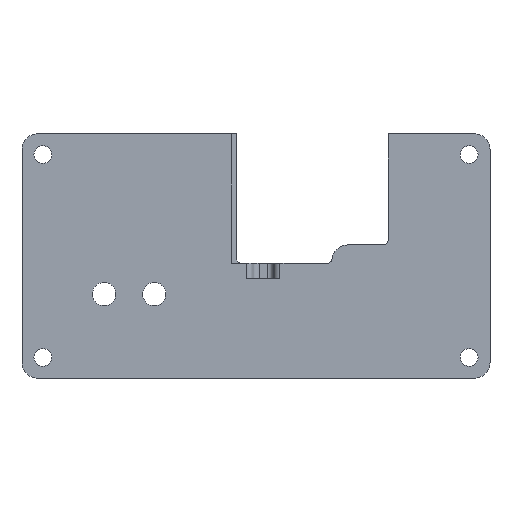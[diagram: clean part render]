
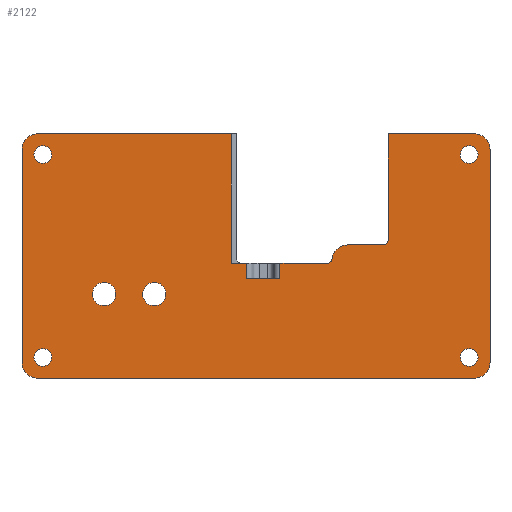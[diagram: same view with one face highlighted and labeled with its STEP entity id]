
A CAD part, top view. The second image highlights one B-rep face of the part: STEP entity #2122.
In plain terms, the highlighted planar face has unit normal (0, 0, 1).
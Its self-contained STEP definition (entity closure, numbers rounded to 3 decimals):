
#262=CARTESIAN_POINT('',(41.,-19.5,4.));
#263=DIRECTION('',(0.,0.,1.));
#264=DIRECTION('',(-1.,0.,0.));
#265=AXIS2_PLACEMENT_3D('',#262,#263,#264);
#267=CARTESIAN_POINT('',(41.,-19.5,4.));
#268=DIRECTION('',(0.,0.,1.));
#269=DIRECTION('',(1.,0.,0.));
#270=AXIS2_PLACEMENT_3D('',#267,#268,#269);
#272=CARTESIAN_POINT('',(-41.,-19.5,4.));
#273=DIRECTION('',(0.,0.,1.));
#274=DIRECTION('',(-1.,0.,0.));
#275=AXIS2_PLACEMENT_3D('',#272,#273,#274);
#277=CARTESIAN_POINT('',(-41.,-19.5,4.));
#278=DIRECTION('',(0.,0.,1.));
#279=DIRECTION('',(1.,0.,0.));
#280=AXIS2_PLACEMENT_3D('',#277,#278,#279);
#282=CARTESIAN_POINT('',(-41.,19.5,4.));
#283=DIRECTION('',(0.,0.,1.));
#284=DIRECTION('',(-1.,0.,0.));
#285=AXIS2_PLACEMENT_3D('',#282,#283,#284);
#287=CARTESIAN_POINT('',(-41.,19.5,4.));
#288=DIRECTION('',(0.,0.,1.));
#289=DIRECTION('',(1.,0.,0.));
#290=AXIS2_PLACEMENT_3D('',#287,#288,#289);
#292=CARTESIAN_POINT('',(41.,19.5,4.));
#293=DIRECTION('',(0.,0.,1.));
#294=DIRECTION('',(-1.,0.,0.));
#295=AXIS2_PLACEMENT_3D('',#292,#293,#294);
#297=CARTESIAN_POINT('',(41.,19.5,4.));
#298=DIRECTION('',(0.,0.,1.));
#299=DIRECTION('',(1.,0.,0.));
#300=AXIS2_PLACEMENT_3D('',#297,#298,#299);
#302=CARTESIAN_POINT('',(-29.218,-7.323,4.));
#303=DIRECTION('',(0.,0.,-1.));
#304=DIRECTION('',(0.,-1.,0.));
#305=AXIS2_PLACEMENT_3D('',#302,#303,#304);
#307=CARTESIAN_POINT('',(-29.218,-7.323,4.));
#308=DIRECTION('',(0.,0.,-1.));
#309=DIRECTION('',(0.,1.,0.));
#310=AXIS2_PLACEMENT_3D('',#307,#308,#309);
#312=CARTESIAN_POINT('',(-19.566,-7.323,4.));
#313=DIRECTION('',(0.,0.,-1.));
#314=DIRECTION('',(0.,-1.,0.));
#315=AXIS2_PLACEMENT_3D('',#312,#313,#314);
#317=CARTESIAN_POINT('',(-19.566,-7.323,4.));
#318=DIRECTION('',(0.,0.,-1.));
#319=DIRECTION('',(0.,1.,0.));
#320=AXIS2_PLACEMENT_3D('',#317,#318,#319);
#322=DIRECTION('',(0.,-1.,0.));
#323=VECTOR('',#322,24.916);
#324=CARTESIAN_POINT('',(-4.8,23.5,4.));
#325=LINE('',#324,#323);
#326=DIRECTION('',(0.,1.,0.));
#327=VECTOR('',#326,3.);
#328=CARTESIAN_POINT('',(-1.8,-4.416,4.));
#329=LINE('',#328,#327);
#330=DIRECTION('',(0.,-1.,0.));
#331=VECTOR('',#330,3.);
#332=CARTESIAN_POINT('',(4.6,-1.416,4.));
#333=LINE('',#332,#331);
#334=DIRECTION('',(1.,0.,0.));
#335=VECTOR('',#334,9.026);
#336=CARTESIAN_POINT('',(4.6,-1.416,4.));
#337=LINE('',#336,#335);
#338=CARTESIAN_POINT('',(17.6,-0.874,4.));
#339=DIRECTION('',(0.,0.,1.));
#340=DIRECTION('',(0.,1.,0.));
#341=AXIS2_PLACEMENT_3D('',#338,#339,#340);
#343=DIRECTION('',(0.,-1.,0.));
#344=VECTOR('',#343,20.374);
#345=CARTESIAN_POINT('',(25.4,23.5,4.));
#346=LINE('',#345,#344);
#347=DIRECTION('',(-1.,0.,0.));
#348=VECTOR('',#347,16.6);
#349=CARTESIAN_POINT('',(42.,23.5,4.));
#350=LINE('',#349,#348);
#351=CARTESIAN_POINT('',(42.,20.5,4.));
#352=DIRECTION('',(0.,0.,1.));
#353=DIRECTION('',(1.,0.,0.));
#354=AXIS2_PLACEMENT_3D('',#351,#352,#353);
#356=DIRECTION('',(0.,1.,0.));
#357=VECTOR('',#356,41.);
#358=CARTESIAN_POINT('',(45.,-20.5,4.));
#359=LINE('',#358,#357);
#360=CARTESIAN_POINT('',(42.,-20.5,4.));
#361=DIRECTION('',(0.,0.,1.));
#362=DIRECTION('',(0.,-1.,0.));
#363=AXIS2_PLACEMENT_3D('',#360,#361,#362);
#365=DIRECTION('',(1.,0.,0.));
#366=VECTOR('',#365,84.);
#367=CARTESIAN_POINT('',(-42.,-23.5,4.));
#368=LINE('',#367,#366);
#369=CARTESIAN_POINT('',(-42.,-20.5,4.));
#370=DIRECTION('',(0.,0.,1.));
#371=DIRECTION('',(-1.,0.,0.));
#372=AXIS2_PLACEMENT_3D('',#369,#370,#371);
#374=DIRECTION('',(0.,-1.,0.));
#375=VECTOR('',#374,41.);
#376=CARTESIAN_POINT('',(-45.,20.5,4.));
#377=LINE('',#376,#375);
#378=CARTESIAN_POINT('',(-42.,20.5,4.));
#379=DIRECTION('',(0.,0.,1.));
#380=DIRECTION('',(0.,1.,0.));
#381=AXIS2_PLACEMENT_3D('',#378,#379,#380);
#383=DIRECTION('',(-1.,0.,0.));
#384=VECTOR('',#383,37.2);
#385=CARTESIAN_POINT('',(-4.8,23.5,4.));
#386=LINE('',#385,#384);
#596=CARTESIAN_POINT('',(24.4,3.126,4.));
#597=DIRECTION('',(0.,0.,-1.));
#598=DIRECTION('',(1.,0.,0.));
#599=AXIS2_PLACEMENT_3D('',#596,#597,#598);
#610=DIRECTION('',(-1.,0.,0.));
#611=VECTOR('',#610,6.8);
#612=CARTESIAN_POINT('',(24.4,2.126,4.));
#613=LINE('',#612,#611);
#626=CARTESIAN_POINT('',(13.626,-0.416,4.));
#627=DIRECTION('',(0.,0.,-1.));
#628=DIRECTION('',(0.993,-0.114,0.));
#629=AXIS2_PLACEMENT_3D('',#626,#627,#628);
#670=DIRECTION('',(-1.,0.,0.));
#671=VECTOR('',#670,3.);
#672=CARTESIAN_POINT('',(-1.8,-1.416,4.));
#673=LINE('',#672,#671);
#720=DIRECTION('',(-1.,0.,0.));
#721=VECTOR('',#720,6.4);
#722=CARTESIAN_POINT('',(4.6,-4.416,4.));
#723=LINE('',#722,#721);
#1470=CARTESIAN_POINT('',(42.,-23.5,4.));
#1471=CARTESIAN_POINT('',(45.,-20.5,4.));
#1472=VERTEX_POINT('',#1470);
#1473=VERTEX_POINT('',#1471);
#1474=CARTESIAN_POINT('',(-45.,-20.5,4.));
#1475=CARTESIAN_POINT('',(-42.,-23.5,4.));
#1476=VERTEX_POINT('',#1474);
#1477=VERTEX_POINT('',#1475);
#1478=CARTESIAN_POINT('',(-42.,23.5,4.));
#1479=CARTESIAN_POINT('',(-45.,20.5,4.));
#1480=VERTEX_POINT('',#1478);
#1481=VERTEX_POINT('',#1479);
#1482=CARTESIAN_POINT('',(45.,20.5,4.));
#1483=CARTESIAN_POINT('',(42.,23.5,4.));
#1484=VERTEX_POINT('',#1482);
#1485=VERTEX_POINT('',#1483);
#1487=CARTESIAN_POINT('',(25.4,23.5,4.));
#1489=VERTEX_POINT('',#1487);
#1491=CARTESIAN_POINT('',(17.6,2.126,4.));
#1493=VERTEX_POINT('',#1491);
#1494=CARTESIAN_POINT('',(-29.218,-9.573,4.));
#1495=CARTESIAN_POINT('',(-29.218,-5.073,4.));
#1496=VERTEX_POINT('',#1494);
#1497=VERTEX_POINT('',#1495);
#1498=CARTESIAN_POINT('',(-19.566,-9.573,4.));
#1499=CARTESIAN_POINT('',(-19.566,-5.073,4.));
#1500=VERTEX_POINT('',#1498);
#1501=VERTEX_POINT('',#1499);
#1764=CARTESIAN_POINT('',(14.62,-0.53,4.));
#1766=VERTEX_POINT('',#1764);
#1768=CARTESIAN_POINT('',(13.626,-1.416,4.));
#1770=VERTEX_POINT('',#1768);
#1772=CARTESIAN_POINT('',(25.4,3.126,4.));
#1774=VERTEX_POINT('',#1772);
#1776=CARTESIAN_POINT('',(24.4,2.126,4.));
#1778=VERTEX_POINT('',#1776);
#1780=CARTESIAN_POINT('',(39.3,-19.5,4.));
#1781=CARTESIAN_POINT('',(42.7,-19.5,4.));
#1782=VERTEX_POINT('',#1780);
#1783=VERTEX_POINT('',#1781);
#1784=CARTESIAN_POINT('',(-42.7,-19.5,4.));
#1785=CARTESIAN_POINT('',(-39.3,-19.5,4.));
#1786=VERTEX_POINT('',#1784);
#1787=VERTEX_POINT('',#1785);
#1788=CARTESIAN_POINT('',(-42.7,19.5,4.));
#1789=CARTESIAN_POINT('',(-39.3,19.5,4.));
#1790=VERTEX_POINT('',#1788);
#1791=VERTEX_POINT('',#1789);
#1792=CARTESIAN_POINT('',(39.3,19.5,4.));
#1793=CARTESIAN_POINT('',(42.7,19.5,4.));
#1794=VERTEX_POINT('',#1792);
#1795=VERTEX_POINT('',#1793);
#1832=CARTESIAN_POINT('',(4.6,-1.416,4.));
#1833=VERTEX_POINT('',#1832);
#1834=CARTESIAN_POINT('',(4.6,-4.416,4.));
#1835=VERTEX_POINT('',#1834);
#1836=CARTESIAN_POINT('',(-1.8,-1.416,4.));
#1838=VERTEX_POINT('',#1836);
#1842=CARTESIAN_POINT('',(-1.8,-4.416,4.));
#1843=VERTEX_POINT('',#1842);
#1844=CARTESIAN_POINT('',(-4.8,23.5,4.));
#1845=CARTESIAN_POINT('',(-4.8,-1.416,4.));
#1846=VERTEX_POINT('',#1844);
#1847=VERTEX_POINT('',#1845);
#2041=CARTESIAN_POINT('',(0.,0.,4.));
#2042=DIRECTION('',(0.,0.,1.));
#2043=DIRECTION('',(1.,0.,0.));
#2044=AXIS2_PLACEMENT_3D('',#2041,#2042,#2043);
#2045=PLANE('',#2044);
#2047=ORIENTED_EDGE('',*,*,#2046,.T.);
#2049=ORIENTED_EDGE('',*,*,#2048,.F.);
#2051=ORIENTED_EDGE('',*,*,#2050,.F.);
#2053=ORIENTED_EDGE('',*,*,#2052,.F.);
#2055=ORIENTED_EDGE('',*,*,#2054,.F.);
#2057=ORIENTED_EDGE('',*,*,#2056,.T.);
#2059=ORIENTED_EDGE('',*,*,#2058,.F.);
#2061=ORIENTED_EDGE('',*,*,#2060,.F.);
#2063=ORIENTED_EDGE('',*,*,#2062,.F.);
#2065=ORIENTED_EDGE('',*,*,#2064,.F.);
#2067=ORIENTED_EDGE('',*,*,#2066,.F.);
#2069=ORIENTED_EDGE('',*,*,#2068,.F.);
#2071=ORIENTED_EDGE('',*,*,#2070,.F.);
#2073=ORIENTED_EDGE('',*,*,#2072,.F.);
#2075=ORIENTED_EDGE('',*,*,#2074,.F.);
#2077=ORIENTED_EDGE('',*,*,#2076,.F.);
#2079=ORIENTED_EDGE('',*,*,#2078,.F.);
#2081=ORIENTED_EDGE('',*,*,#2080,.F.);
#2083=ORIENTED_EDGE('',*,*,#2082,.F.);
#2085=ORIENTED_EDGE('',*,*,#2084,.F.);
#2086=EDGE_LOOP('',(#2047,#2049,#2051,#2053,#2055,#2057,#2059,#2061,#2063,#2065,
#2067,#2069,#2071,#2073,#2075,#2077,#2079,#2081,#2083,#2085));
#2087=FACE_OUTER_BOUND('',#2086,.F.);
#2089=ORIENTED_EDGE('',*,*,#2088,.T.);
#2091=ORIENTED_EDGE('',*,*,#2090,.T.);
#2092=EDGE_LOOP('',(#2089,#2091));
#2093=FACE_BOUND('',#2092,.F.);
#2095=ORIENTED_EDGE('',*,*,#2094,.T.);
#2097=ORIENTED_EDGE('',*,*,#2096,.T.);
#2098=EDGE_LOOP('',(#2095,#2097));
#2099=FACE_BOUND('',#2098,.F.);
#2101=ORIENTED_EDGE('',*,*,#2100,.T.);
#2103=ORIENTED_EDGE('',*,*,#2102,.T.);
#2104=EDGE_LOOP('',(#2101,#2103));
#2105=FACE_BOUND('',#2104,.F.);
#2107=ORIENTED_EDGE('',*,*,#2106,.F.);
#2109=ORIENTED_EDGE('',*,*,#2108,.F.);
#2110=EDGE_LOOP('',(#2107,#2109));
#2111=FACE_BOUND('',#2110,.F.);
#2112=ORIENTED_EDGE('',*,*,#2021,.F.);
#2113=ORIENTED_EDGE('',*,*,#2035,.F.);
#2114=EDGE_LOOP('',(#2112,#2113));
#2115=FACE_BOUND('',#2114,.F.);
#2117=ORIENTED_EDGE('',*,*,#2116,.T.);
#2119=ORIENTED_EDGE('',*,*,#2118,.T.);
#2120=EDGE_LOOP('',(#2117,#2119));
#2121=FACE_BOUND('',#2120,.F.);
#2122=ADVANCED_FACE('',(#2087,#2093,#2099,#2105,#2111,#2115,#2121),#2045,.T.);
#266=CIRCLE('',#265,1.7);
#271=CIRCLE('',#270,1.7);
#276=CIRCLE('',#275,1.7);
#281=CIRCLE('',#280,1.7);
#286=CIRCLE('',#285,1.7);
#291=CIRCLE('',#290,1.7);
#296=CIRCLE('',#295,1.7);
#301=CIRCLE('',#300,1.7);
#306=CIRCLE('',#305,2.25);
#311=CIRCLE('',#310,2.25);
#316=CIRCLE('',#315,2.25);
#321=CIRCLE('',#320,2.25);
#342=CIRCLE('',#341,3.);
#355=CIRCLE('',#354,3.);
#364=CIRCLE('',#363,3.);
#373=CIRCLE('',#372,3.);
#382=CIRCLE('',#381,3.);
#600=CIRCLE('',#599,1.);
#630=CIRCLE('',#629,1.);
#2021=EDGE_CURVE('',#1500,#1501,#316,.T.);
#2035=EDGE_CURVE('',#1501,#1500,#321,.T.);
#2046=EDGE_CURVE('',#1846,#1847,#325,.T.);
#2048=EDGE_CURVE('',#1838,#1847,#673,.T.);
#2050=EDGE_CURVE('',#1843,#1838,#329,.T.);
#2052=EDGE_CURVE('',#1835,#1843,#723,.T.);
#2054=EDGE_CURVE('',#1833,#1835,#333,.T.);
#2056=EDGE_CURVE('',#1833,#1770,#337,.T.);
#2058=EDGE_CURVE('',#1766,#1770,#630,.T.);
#2060=EDGE_CURVE('',#1493,#1766,#342,.T.);
#2062=EDGE_CURVE('',#1778,#1493,#613,.T.);
#2064=EDGE_CURVE('',#1774,#1778,#600,.T.);
#2066=EDGE_CURVE('',#1489,#1774,#346,.T.);
#2068=EDGE_CURVE('',#1485,#1489,#350,.T.);
#2070=EDGE_CURVE('',#1484,#1485,#355,.T.);
#2072=EDGE_CURVE('',#1473,#1484,#359,.T.);
#2074=EDGE_CURVE('',#1472,#1473,#364,.T.);
#2076=EDGE_CURVE('',#1477,#1472,#368,.T.);
#2078=EDGE_CURVE('',#1476,#1477,#373,.T.);
#2080=EDGE_CURVE('',#1481,#1476,#377,.T.);
#2082=EDGE_CURVE('',#1480,#1481,#382,.T.);
#2084=EDGE_CURVE('',#1846,#1480,#386,.T.);
#2088=EDGE_CURVE('',#1786,#1787,#276,.T.);
#2090=EDGE_CURVE('',#1787,#1786,#281,.T.);
#2094=EDGE_CURVE('',#1790,#1791,#286,.T.);
#2096=EDGE_CURVE('',#1791,#1790,#291,.T.);
#2100=EDGE_CURVE('',#1794,#1795,#296,.T.);
#2102=EDGE_CURVE('',#1795,#1794,#301,.T.);
#2106=EDGE_CURVE('',#1496,#1497,#306,.T.);
#2108=EDGE_CURVE('',#1497,#1496,#311,.T.);
#2116=EDGE_CURVE('',#1782,#1783,#266,.T.);
#2118=EDGE_CURVE('',#1783,#1782,#271,.T.);
